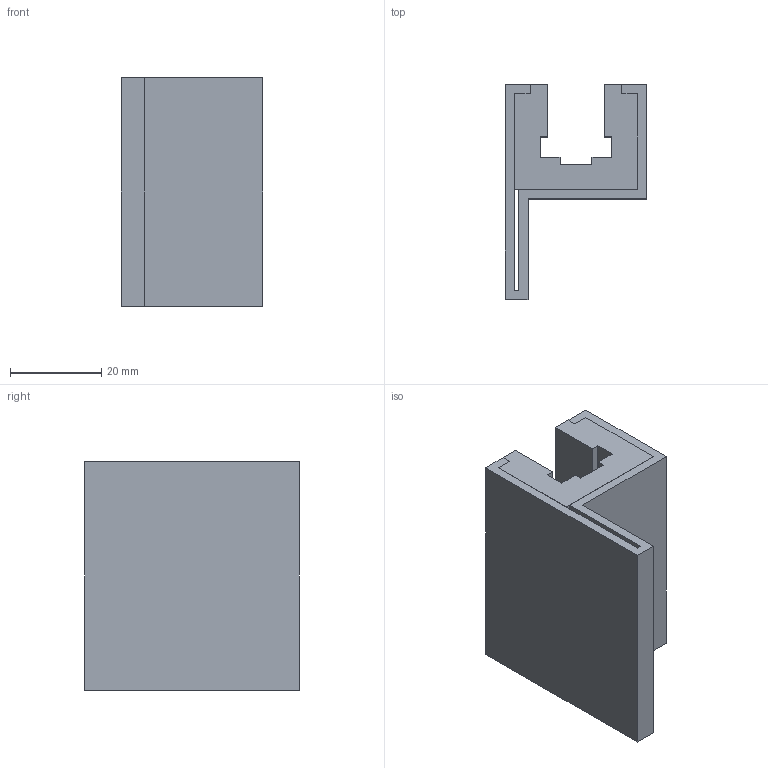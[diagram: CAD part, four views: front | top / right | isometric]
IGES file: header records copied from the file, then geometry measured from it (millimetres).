
Start section: SolidWorks IGES file using analytic representation for surfaces
Global section: file name: C:\Documents and Settings\ARGE\Desktop\yeni katalog tolgay düzenli\E kataloðu\ALPOLEN 1000 ZÝNCÝR KIZAKLARI\MONTAJ 2\207 DYP 034.IGS; native system: SolidWorks 2006 by SolidWorks Corporation; preprocessor: SolidWorks 2006 by SolidWorks Corporation; author: ARGE2; date: 060913.094546; units: millimetre
Bounding box: 31 x 47 x 50 mm (x, y, z)
Surface area: 21363.4 mm2 (no closed solid volume)
Topology: 0 solids, 0 shells, 40 faces, 216 edges, 216 vertices
Faces by surface type: bspline 40
